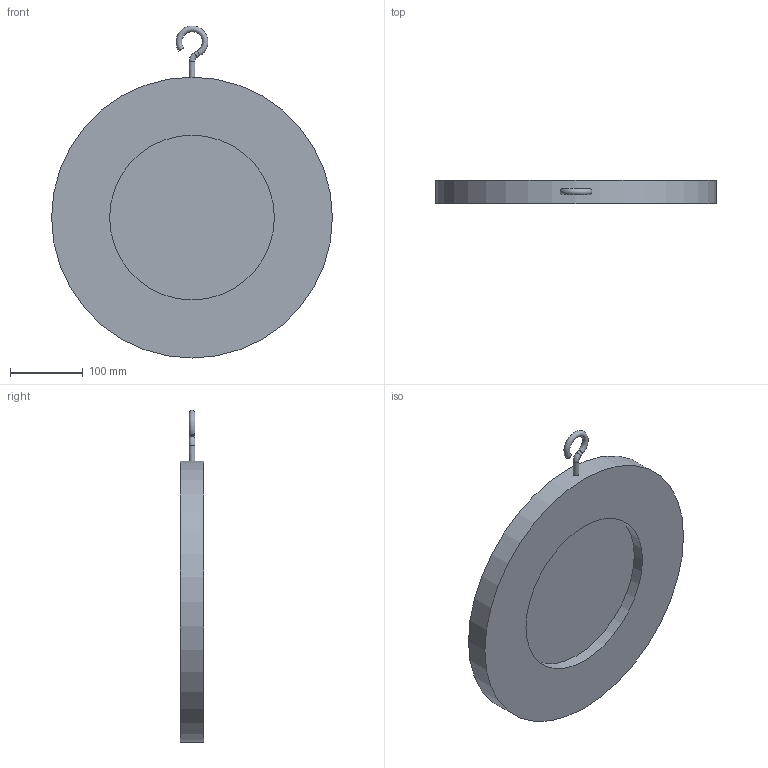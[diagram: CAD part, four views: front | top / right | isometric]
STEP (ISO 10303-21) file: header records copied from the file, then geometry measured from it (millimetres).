
FILE_DESCRIPTION(('STEP AP203'), '1');
FILE_NAME('孰囡囗 钺疣蝽 钿眍耱忸瘅囹 戾骠豚眦邂 008C DN300', '', ('UNSPECIFIED'), ('UNSPECIFIED'), 'ASCON STEP Converter 1.6', 'ASCON Math Kernel', '');
FILE_SCHEMA(('CONFIG_CONTROL_DESIGN'));
Length unit declared in the file: millimetre
Bounding box: 387 x 32 x 457.45 mm (x, y, z)
Volume: 2455805.4 mm3; surface area: 306197.8 mm2
Topology: 1 solids, 1 shells, 15 faces, 30 edges, 19 vertices
Faces by surface type: plane 7, cylinder 5, torus 2, cone 1
Full cylindrical faces by diameter (mm): 8 x2, 227 x1, 387 x1
Entity records: 761 total; most frequent: CARTESIAN_POINT 317, DIRECTION 62, ORIENTED_EDGE 46, AXIS2_PLACEMENT_3D 28, EDGE_LOOP 24, EDGE_CURVE 23, VERTEX_POINT 19, COLOUR_RGB 16
